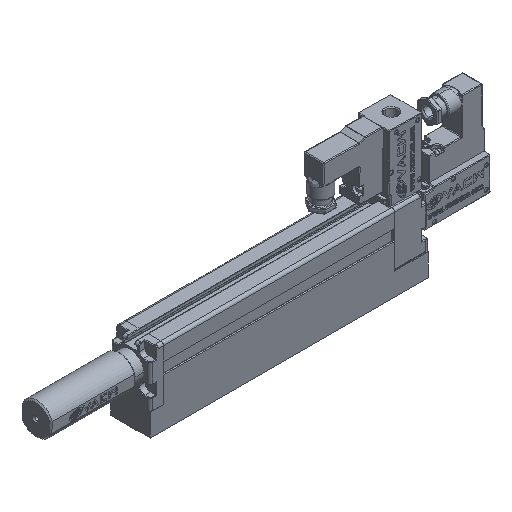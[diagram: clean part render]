
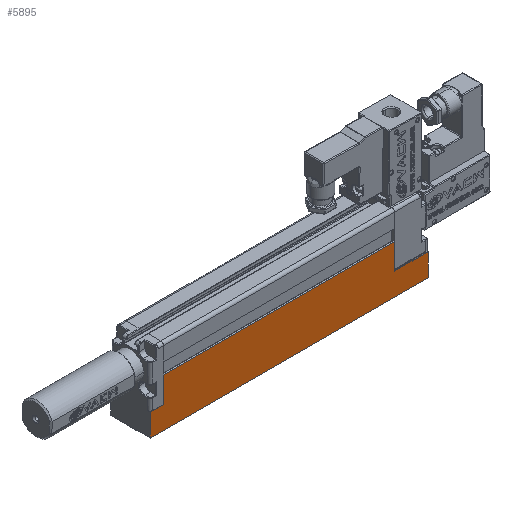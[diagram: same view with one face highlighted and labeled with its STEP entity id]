
A CAD part, isometric view. The second image highlights one B-rep face of the part: STEP entity #5895.
In plain terms, the highlighted planar face has unit normal (0, -1, 0).
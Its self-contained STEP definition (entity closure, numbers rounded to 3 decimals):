
#3 = ORIENTED_EDGE ( 'NONE', *, *, #50563, .T. ) ;
#1549 = EDGE_CURVE ( 'NONE', #45447, #11925, #4455, .T. ) ;
#2124 = CARTESIAN_POINT ( 'NONE',  ( -152.413, 84.282, -17.85 ) ) ;
#3416 = CARTESIAN_POINT ( 'NONE',  ( 32.087, 84.282, -0.85 ) ) ;
#4076 = EDGE_CURVE ( 'NONE', #18293, #15355, #29821, .T. ) ;
#4455 = LINE ( 'NONE', #7602, #33834 ) ;
#5317 = ORIENTED_EDGE ( 'NONE', *, *, #4076, .F. ) ;
#5634 = VECTOR ( 'NONE', #30078, 1000. ) ;
#5895 = ADVANCED_FACE ( 'NONE', ( #6497 ), #38145, .F. ) ;
#6305 = DIRECTION ( 'NONE',  ( -1., 0., 0. ) ) ;
#6497 = FACE_OUTER_BOUND ( 'NONE', #30906, .T. ) ;
#7160 = VERTEX_POINT ( 'NONE', #14218 ) ;
#7602 = CARTESIAN_POINT ( 'NONE',  ( -142.413, 84.282, -0.85 ) ) ;
#9249 = ORIENTED_EDGE ( 'NONE', *, *, #32085, .F. ) ;
#9519 = CARTESIAN_POINT ( 'NONE',  ( -152.413, 84.282, -17.85 ) ) ;
#11824 = CARTESIAN_POINT ( 'NONE',  ( -152.413, 84.282, -0.85 ) ) ;
#11925 = VERTEX_POINT ( 'NONE', #26521 ) ;
#12037 = LINE ( 'NONE', #12901, #23640 ) ;
#12901 = CARTESIAN_POINT ( 'NONE',  ( 32.087, 84.282, 18.4 ) ) ;
#13391 = CARTESIAN_POINT ( 'NONE',  ( -142.413, 84.282, -0.85 ) ) ;
#14218 = CARTESIAN_POINT ( 'NONE',  ( 57.587, 84.282, -17.85 ) ) ;
#14738 = VECTOR ( 'NONE', #6305, 1000. ) ;
#15355 = VERTEX_POINT ( 'NONE', #11824 ) ;
#15394 = LINE ( 'NONE', #23670, #14738 ) ;
#16829 = CARTESIAN_POINT ( 'NONE',  ( 57.587, 84.282, -0.85 ) ) ;
#18293 = VERTEX_POINT ( 'NONE', #9519 ) ;
#19665 = DIRECTION ( 'NONE',  ( 0., 0., 1. ) ) ;
#20670 = DIRECTION ( 'NONE',  ( 1., 0., 0. ) ) ;
#20759 = VERTEX_POINT ( 'NONE', #50796 ) ;
#23640 = VECTOR ( 'NONE', #43618, 1000. ) ;
#23670 = CARTESIAN_POINT ( 'NONE',  ( 57.587, 84.282, -0.85 ) ) ;
#26521 = CARTESIAN_POINT ( 'NONE',  ( -142.413, 84.282, 18.4 ) ) ;
#26968 = ORIENTED_EDGE ( 'NONE', *, *, #48692, .F. ) ;
#27026 = ORIENTED_EDGE ( 'NONE', *, *, #31651, .T. ) ;
#27438 = AXIS2_PLACEMENT_3D ( 'NONE', #37371, #55420, #42529 ) ;
#28591 = ORIENTED_EDGE ( 'NONE', *, *, #43404, .F. ) ;
#29821 = LINE ( 'NONE', #2124, #43434 ) ;
#30078 = DIRECTION ( 'NONE',  ( -1., 0., 0. ) ) ;
#30906 = EDGE_LOOP ( 'NONE', ( #9249, #31568, #27026, #5317, #26968, #39253, #3, #28591 ) ) ;
#31506 = VECTOR ( 'NONE', #52380, 1000. ) ;
#31564 = CARTESIAN_POINT ( 'NONE',  ( 57.587, 84.282, -17.85 ) ) ;
#31568 = ORIENTED_EDGE ( 'NONE', *, *, #1549, .F. ) ;
#31651 = EDGE_CURVE ( 'NONE', #45447, #15355, #37751, .T. ) ;
#32085 = EDGE_CURVE ( 'NONE', #11925, #20759, #45861, .T. ) ;
#32672 = EDGE_CURVE ( 'NONE', #7160, #40843, #43101, .T. ) ;
#33301 = LINE ( 'NONE', #31564, #44870 ) ;
#33834 = VECTOR ( 'NONE', #38142, 1000. ) ;
#37044 = VECTOR ( 'NONE', #20670, 1000. ) ;
#37371 = CARTESIAN_POINT ( 'NONE',  ( 68.087, 84.282, 20.212 ) ) ;
#37751 = LINE ( 'NONE', #39056, #5634 ) ;
#38142 = DIRECTION ( 'NONE',  ( 0., 0., 1. ) ) ;
#38145 = PLANE ( 'NONE',  #27438 ) ;
#39056 = CARTESIAN_POINT ( 'NONE',  ( -142.413, 84.282, -0.85 ) ) ;
#39253 = ORIENTED_EDGE ( 'NONE', *, *, #32672, .T. ) ;
#39694 = CARTESIAN_POINT ( 'NONE',  ( 57.587, 84.282, -17.85 ) ) ;
#40843 = VERTEX_POINT ( 'NONE', #16829 ) ;
#42529 = DIRECTION ( 'NONE',  ( 0., 0., -1. ) ) ;
#43101 = LINE ( 'NONE', #39694, #31506 ) ;
#43404 = EDGE_CURVE ( 'NONE', #20759, #49203, #12037, .T. ) ;
#43434 = VECTOR ( 'NONE', #19665, 1000. ) ;
#43618 = DIRECTION ( 'NONE',  ( 0., 0., -1. ) ) ;
#44150 = DIRECTION ( 'NONE',  ( -1., 0., 0. ) ) ;
#44870 = VECTOR ( 'NONE', #44150, 1000. ) ;
#45447 = VERTEX_POINT ( 'NONE', #13391 ) ;
#45861 = LINE ( 'NONE', #52449, #37044 ) ;
#48692 = EDGE_CURVE ( 'NONE', #7160, #18293, #33301, .T. ) ;
#49203 = VERTEX_POINT ( 'NONE', #3416 ) ;
#50563 = EDGE_CURVE ( 'NONE', #40843, #49203, #15394, .T. ) ;
#50796 = CARTESIAN_POINT ( 'NONE',  ( 32.087, 84.282, 18.4 ) ) ;
#52380 = DIRECTION ( 'NONE',  ( 0., 0., 1. ) ) ;
#52449 = CARTESIAN_POINT ( 'NONE',  ( -142.413, 84.282, 18.4 ) ) ;
#55420 = DIRECTION ( 'NONE',  ( 0., 1., 0. ) ) ;
